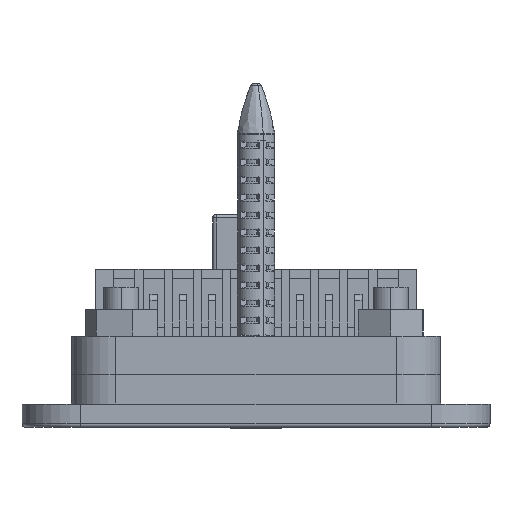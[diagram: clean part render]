
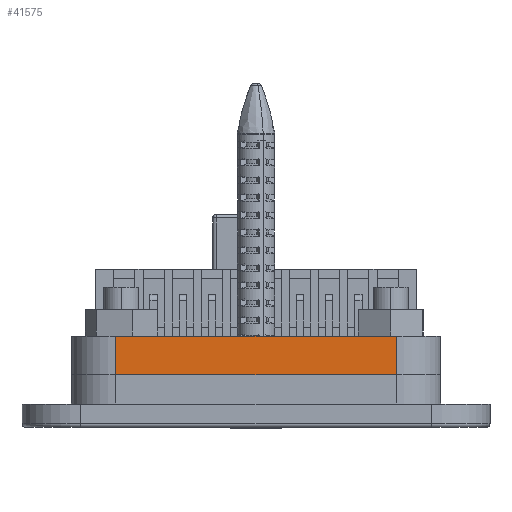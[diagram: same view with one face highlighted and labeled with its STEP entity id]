
A CAD part, left-side view. The second image highlights one B-rep face of the part: STEP entity #41575.
In plain terms, the highlighted planar face has unit normal (-1, 0, 0).
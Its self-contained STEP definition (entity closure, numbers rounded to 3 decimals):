
#1195 = EDGE_CURVE ( 'NONE', #38702, #31119, #29742, .T. ) ;
#1686 = CARTESIAN_POINT ( 'NONE',  ( -79.601, -13.783, 7.8 ) ) ;
#2458 = FACE_OUTER_BOUND ( 'NONE', #32690, .T. ) ;
#3165 = CARTESIAN_POINT ( 'NONE',  ( -79.601, 10.217, 4.5 ) ) ;
#3420 = DIRECTION ( 'NONE',  ( 0., -1., 0. ) ) ;
#3936 = EDGE_CURVE ( 'NONE', #19923, #31119, #13411, .T. ) ;
#6581 = DIRECTION ( 'NONE',  ( 0., 0., -1. ) ) ;
#9779 = ORIENTED_EDGE ( 'NONE', *, *, #1195, .T. ) ;
#9925 = CARTESIAN_POINT ( 'NONE',  ( -79.601, -13.783, 7.8 ) ) ;
#11490 = CARTESIAN_POINT ( 'NONE',  ( -79.601, 10.217, 4.5 ) ) ;
#11577 = DIRECTION ( 'NONE',  ( 0., 0., -1. ) ) ;
#12655 = LINE ( 'NONE', #32517, #19422 ) ;
#13411 = LINE ( 'NONE', #9925, #28997 ) ;
#13773 = EDGE_CURVE ( 'NONE', #26454, #38702, #12655, .T. ) ;
#14813 = DIRECTION ( 'NONE',  ( 0., -1., 0. ) ) ;
#15075 = EDGE_CURVE ( 'NONE', #26454, #19923, #19115, .T. ) ;
#16424 = ORIENTED_EDGE ( 'NONE', *, *, #13773, .T. ) ;
#16764 = CARTESIAN_POINT ( 'NONE',  ( -79.601, 10.217, 7.8 ) ) ;
#19115 = LINE ( 'NONE', #39803, #34642 ) ;
#19312 = DIRECTION ( 'NONE',  ( 0., 0., -1. ) ) ;
#19422 = VECTOR ( 'NONE', #19312, 1000. ) ;
#19583 = ORIENTED_EDGE ( 'NONE', *, *, #3936, .F. ) ;
#19923 = VERTEX_POINT ( 'NONE', #1686 ) ;
#20912 = VECTOR ( 'NONE', #14813, 1000. ) ;
#24967 = CARTESIAN_POINT ( 'NONE',  ( -79.601, -13.783, 4.5 ) ) ;
#26454 = VERTEX_POINT ( 'NONE', #16764 ) ;
#28118 = PLANE ( 'NONE',  #32579 ) ;
#28997 = VECTOR ( 'NONE', #6581, 1000. ) ;
#29168 = ORIENTED_EDGE ( 'NONE', *, *, #15075, .F. ) ;
#29742 = LINE ( 'NONE', #11490, #20912 ) ;
#31119 = VERTEX_POINT ( 'NONE', #24967 ) ;
#31464 = DIRECTION ( 'NONE',  ( 1., 0., 0. ) ) ;
#32517 = CARTESIAN_POINT ( 'NONE',  ( -79.601, 10.217, 7.8 ) ) ;
#32579 = AXIS2_PLACEMENT_3D ( 'NONE', #41179, #31464, #11577 ) ;
#32690 = EDGE_LOOP ( 'NONE', ( #9779, #19583, #29168, #16424 ) ) ;
#34642 = VECTOR ( 'NONE', #3420, 1000. ) ;
#38702 = VERTEX_POINT ( 'NONE', #3165 ) ;
#39803 = CARTESIAN_POINT ( 'NONE',  ( -79.601, 10.217, 7.8 ) ) ;
#41179 = CARTESIAN_POINT ( 'NONE',  ( -79.601, 10.217, 7.8 ) ) ;
#41575 = ADVANCED_FACE ( 'NONE', ( #2458 ), #28118, .F. ) ;
